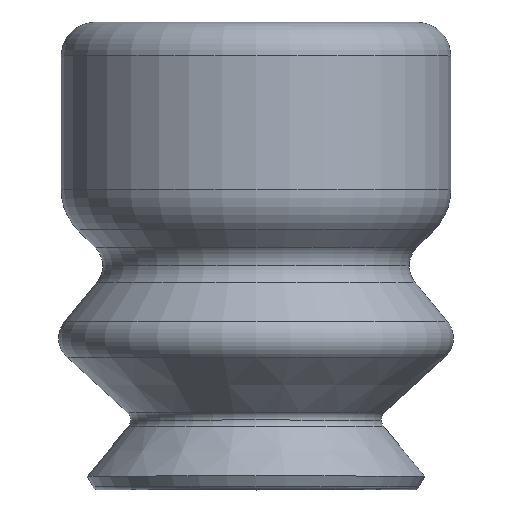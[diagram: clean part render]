
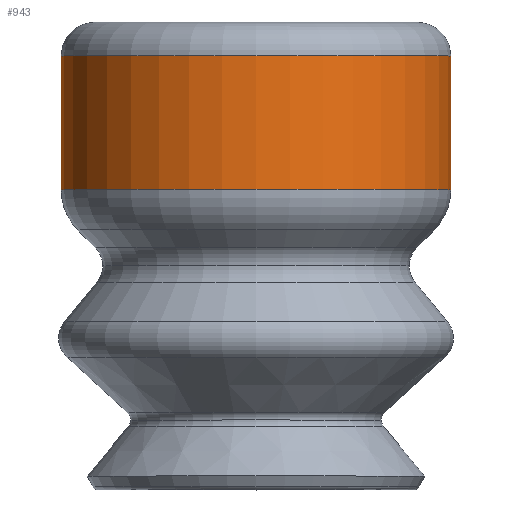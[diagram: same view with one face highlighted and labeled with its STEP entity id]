
A CAD part, top view. The second image highlights one B-rep face of the part: STEP entity #943.
In plain terms, the highlighted cylindrical face has radius 3.75 mm (diameter 7.5 mm), a partial arc.
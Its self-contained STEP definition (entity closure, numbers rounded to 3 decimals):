
#12 = ORIENTED_EDGE ( 'NONE', *, *, #648, .T. ) ;
#69 = CARTESIAN_POINT ( 'NONE',  ( 3.75, -0.65, 0. ) ) ;
#106 = ORIENTED_EDGE ( 'NONE', *, *, #1603, .T. ) ;
#143 = LINE ( 'NONE', #331, #839 ) ;
#175 = DIRECTION ( 'NONE',  ( -1., 0., 0. ) ) ;
#182 = CIRCLE ( 'NONE', #1196, 3.75 ) ;
#279 = DIRECTION ( 'NONE',  ( 0., 1., 0. ) ) ;
#312 = CARTESIAN_POINT ( 'NONE',  ( 3.75, -3.224, 0. ) ) ;
#331 = CARTESIAN_POINT ( 'NONE',  ( -3.75, 0., 0. ) ) ;
#376 = DIRECTION ( 'NONE',  ( 0., 1., 0. ) ) ;
#393 = EDGE_LOOP ( 'NONE', ( #106, #12, #780, #1124 ) ) ;
#451 = CARTESIAN_POINT ( 'NONE',  ( 0., -3.224, 0. ) ) ;
#551 = VERTEX_POINT ( 'NONE', #69 ) ;
#564 = VECTOR ( 'NONE', #687, 1000. ) ;
#576 = DIRECTION ( 'NONE',  ( -1., 0., 0. ) ) ;
#648 = EDGE_CURVE ( 'NONE', #1315, #551, #1119, .T. ) ;
#687 = DIRECTION ( 'NONE',  ( 0., 1., 0. ) ) ;
#733 = AXIS2_PLACEMENT_3D ( 'NONE', #758, #376, #872 ) ;
#758 = CARTESIAN_POINT ( 'NONE',  ( 0., 0., 0. ) ) ;
#780 = ORIENTED_EDGE ( 'NONE', *, *, #1055, .F. ) ;
#782 = VERTEX_POINT ( 'NONE', #1609 ) ;
#839 = VECTOR ( 'NONE', #1324, 1000. ) ;
#872 = DIRECTION ( 'NONE',  ( -1., 0., 0. ) ) ;
#943 = ADVANCED_FACE ( 'NONE', ( #971 ), #1534, .T. ) ;
#945 = VERTEX_POINT ( 'NONE', #1489 ) ;
#971 = FACE_OUTER_BOUND ( 'NONE', #393, .T. ) ;
#1042 = DIRECTION ( 'NONE',  ( 0., 1., 0. ) ) ;
#1055 = EDGE_CURVE ( 'NONE', #945, #551, #1598, .T. ) ;
#1119 = LINE ( 'NONE', #1167, #564 ) ;
#1124 = ORIENTED_EDGE ( 'NONE', *, *, #1433, .F. ) ;
#1167 = CARTESIAN_POINT ( 'NONE',  ( 3.75, 0., 0. ) ) ;
#1196 = AXIS2_PLACEMENT_3D ( 'NONE', #451, #1042, #576 ) ;
#1293 = CARTESIAN_POINT ( 'NONE',  ( 0., -0.65, 0. ) ) ;
#1315 = VERTEX_POINT ( 'NONE', #312 ) ;
#1324 = DIRECTION ( 'NONE',  ( 0., 1., 0. ) ) ;
#1433 = EDGE_CURVE ( 'NONE', #782, #945, #143, .T. ) ;
#1448 = AXIS2_PLACEMENT_3D ( 'NONE', #1293, #279, #175 ) ;
#1489 = CARTESIAN_POINT ( 'NONE',  ( -3.75, -0.65, 0. ) ) ;
#1534 = CYLINDRICAL_SURFACE ( 'NONE', #733, 3.75 ) ;
#1598 = CIRCLE ( 'NONE', #1448, 3.75 ) ;
#1603 = EDGE_CURVE ( 'NONE', #782, #1315, #182, .T. ) ;
#1609 = CARTESIAN_POINT ( 'NONE',  ( -3.75, -3.224, 0. ) ) ;
